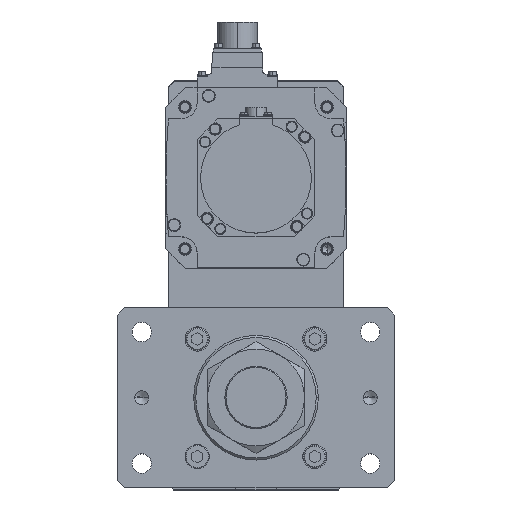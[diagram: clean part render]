
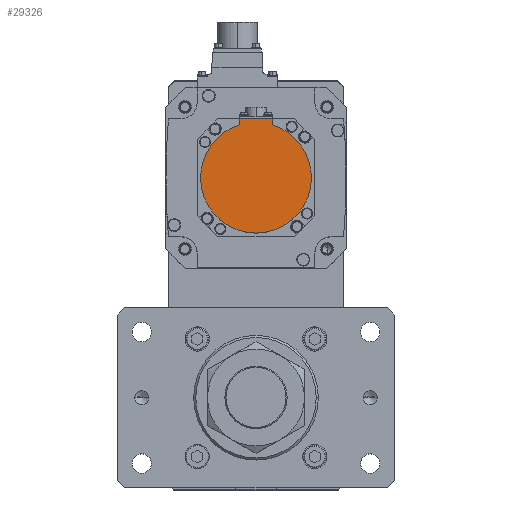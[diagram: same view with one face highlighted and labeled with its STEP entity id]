
A CAD part, top view. The second image highlights one B-rep face of the part: STEP entity #29326.
In plain terms, the highlighted planar face has unit normal (0, 0, 1) as drawn and (0, 0, -1) by its records, which use the part's own axes.
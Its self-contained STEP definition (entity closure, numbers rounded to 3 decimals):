
#187 = DIRECTION ( 'NONE',  ( 1., 0., 0. ) ) ;
#195 = CARTESIAN_POINT ( 'NONE',  ( 12., -38.158, -146.5 ) ) ;
#964 = AXIS2_PLACEMENT_3D ( 'NONE', #5800, #27274, #29967 ) ;
#2220 = VECTOR ( 'NONE', #18910, 1000. ) ;
#2273 = EDGE_CURVE ( 'NONE', #6552, #16894, #17380, .T. ) ;
#2362 = ORIENTED_EDGE ( 'NONE', *, *, #5094, .F. ) ;
#3467 = ORIENTED_EDGE ( 'NONE', *, *, #22259, .T. ) ;
#3743 = AXIS2_PLACEMENT_3D ( 'NONE', #5947, #19557, #16798 ) ;
#3763 = LINE ( 'NONE', #29728, #23766 ) ;
#3918 = EDGE_CURVE ( 'NONE', #23705, #34629, #6429, .T. ) ;
#3993 = VECTOR ( 'NONE', #19905, 1000. ) ;
#4392 = CIRCLE ( 'NONE', #21562, 40. ) ;
#5094 = EDGE_CURVE ( 'NONE', #23705, #31557, #3763, .T. ) ;
#5800 = CARTESIAN_POINT ( 'NONE',  ( 0., 0., -146.5 ) ) ;
#5947 = CARTESIAN_POINT ( 'NONE',  ( 0., 0., -146.5 ) ) ;
#6082 = EDGE_CURVE ( 'NONE', #16894, #9960, #26236, .T. ) ;
#6429 = LINE ( 'NONE', #32336, #2220 ) ;
#6552 = VERTEX_POINT ( 'NONE', #11552 ) ;
#6878 = DIRECTION ( 'NONE',  ( 1., 0., 0. ) ) ;
#7264 = ORIENTED_EDGE ( 'NONE', *, *, #2273, .F. ) ;
#7535 = FACE_OUTER_BOUND ( 'NONE', #15263, .T. ) ;
#8650 = PLANE ( 'NONE',  #28939 ) ;
#9960 = VERTEX_POINT ( 'NONE', #15834 ) ;
#10810 = ORIENTED_EDGE ( 'NONE', *, *, #31772, .F. ) ;
#10852 = DIRECTION ( 'NONE',  ( 0., 1., 0. ) ) ;
#11552 = CARTESIAN_POINT ( 'NONE',  ( 40., 0., -146.5 ) ) ;
#15263 = EDGE_LOOP ( 'NONE', ( #3467, #26083, #7264, #10810, #2362, #29366 ) ) ;
#15834 = CARTESIAN_POINT ( 'NONE',  ( -12., -38.158, -146.5 ) ) ;
#16771 = CARTESIAN_POINT ( 'NONE',  ( -12., -42.5, -146.5 ) ) ;
#16798 = DIRECTION ( 'NONE',  ( 1., 0., 0. ) ) ;
#16894 = VERTEX_POINT ( 'NONE', #17244 ) ;
#17244 = CARTESIAN_POINT ( 'NONE',  ( -40., 0., -146.5 ) ) ;
#17365 = LINE ( 'NONE', #27884, #3993 ) ;
#17380 = CIRCLE ( 'NONE', #964, 40. ) ;
#18910 = DIRECTION ( 'NONE',  ( -1., 0., 0. ) ) ;
#19557 = DIRECTION ( 'NONE',  ( 0., 0., 1. ) ) ;
#19905 = DIRECTION ( 'NONE',  ( 0., 1., 0. ) ) ;
#21562 = AXIS2_PLACEMENT_3D ( 'NONE', #33690, #33578, #6878 ) ;
#22259 = EDGE_CURVE ( 'NONE', #34629, #9960, #17365, .T. ) ;
#23705 = VERTEX_POINT ( 'NONE', #26856 ) ;
#23766 = VECTOR ( 'NONE', #10852, 1000. ) ;
#24575 = CARTESIAN_POINT ( 'NONE',  ( 0., -1.249, -146.5 ) ) ;
#26083 = ORIENTED_EDGE ( 'NONE', *, *, #6082, .F. ) ;
#26236 = CIRCLE ( 'NONE', #3743, 40. ) ;
#26856 = CARTESIAN_POINT ( 'NONE',  ( 12., -42.5, -146.5 ) ) ;
#27274 = DIRECTION ( 'NONE',  ( 0., 0., 1. ) ) ;
#27291 = DIRECTION ( 'NONE',  ( 0., 0., 1. ) ) ;
#27884 = CARTESIAN_POINT ( 'NONE',  ( -12., -40.329, -146.5 ) ) ;
#28939 = AXIS2_PLACEMENT_3D ( 'NONE', #24575, #27291, #187 ) ;
#29326 = ADVANCED_FACE ( 'NONE', ( #7535 ), #8650, .F. ) ;
#29366 = ORIENTED_EDGE ( 'NONE', *, *, #3918, .T. ) ;
#29728 = CARTESIAN_POINT ( 'NONE',  ( 12., -1.249, -146.5 ) ) ;
#29967 = DIRECTION ( 'NONE',  ( 1., 0., 0. ) ) ;
#31557 = VERTEX_POINT ( 'NONE', #195 ) ;
#31772 = EDGE_CURVE ( 'NONE', #31557, #6552, #4392, .T. ) ;
#32336 = CARTESIAN_POINT ( 'NONE',  ( 0., -42.5, -146.5 ) ) ;
#33578 = DIRECTION ( 'NONE',  ( 0., 0., 1. ) ) ;
#33690 = CARTESIAN_POINT ( 'NONE',  ( 0., 0., -146.5 ) ) ;
#34629 = VERTEX_POINT ( 'NONE', #16771 ) ;
